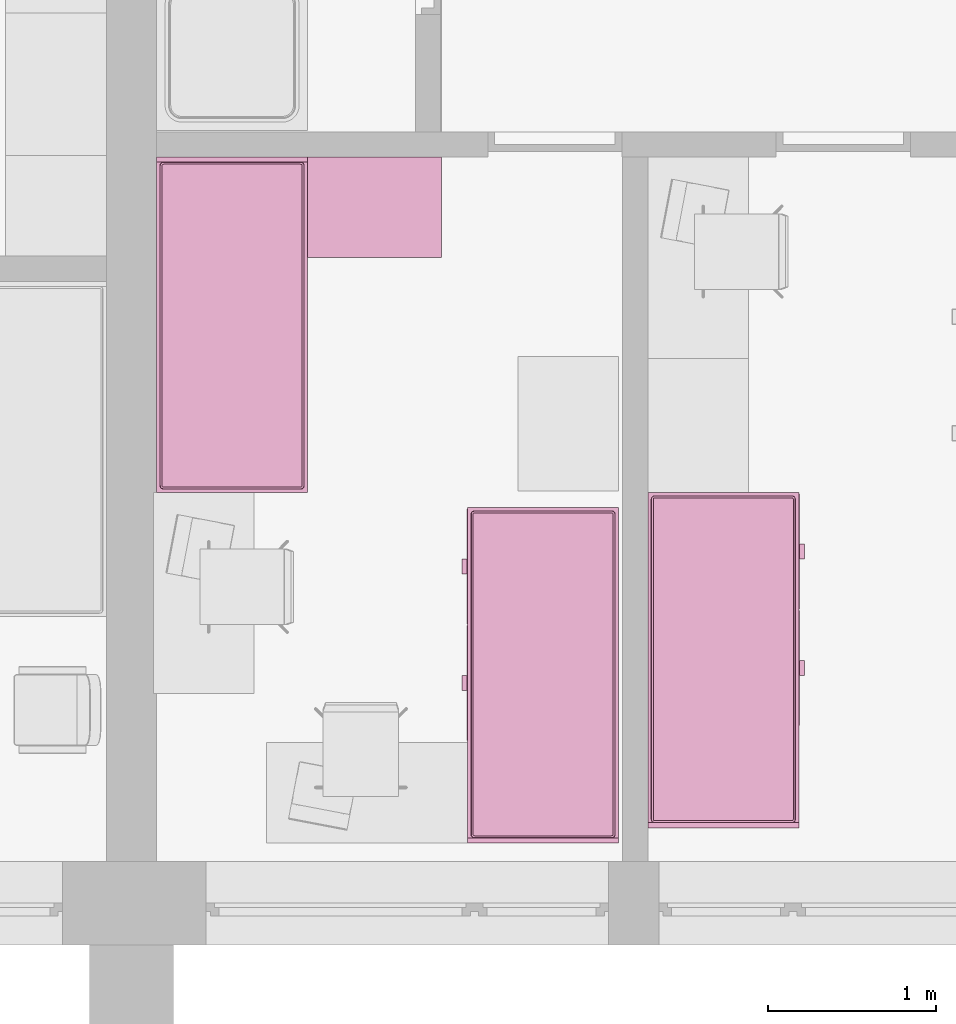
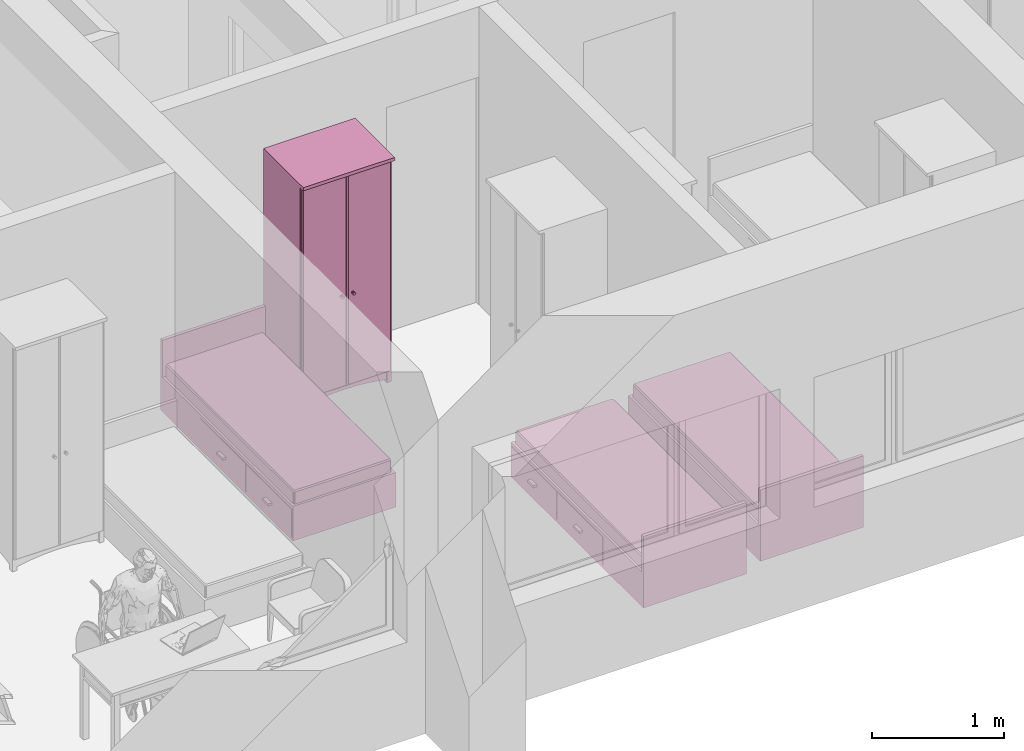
# One storey, part 125 of 172: 4 furnishings.
"""IFC2X3 building model written with IfcOpenShell, lengths in millimetres."""

from ifc_helpers import new_model, entity, si_unit, converted_unit, money_unit, direction, frame, origin_with_axes, place, context, subcontext, project, spatial, faceted_brep, source, transform, mapped, material, material_list, type_object, element, save


model = new_model("IFC2X3")

# Units and contexts
model_context = context("Model", 3, precision=1e-05, world=origin_with_axes(), true_north=direction((0.0, 1.0)))
body_context = subcontext(model_context, "Body", "Model", "MODEL_VIEW")
ifc_project = project(units=[si_unit("LENGTHUNIT", "METRE", prefix="MILLI"), si_unit("AREAUNIT", "SQUARE_METRE"), si_unit("VOLUMEUNIT", "CUBIC_METRE"), converted_unit("PLANEANGLEUNIT", "DEGREE", entity("IfcPlaneAngleMeasure", 0.0174532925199), si_unit("PLANEANGLEUNIT", "RADIAN"), dimensions=[0, 0, 0, 0, 0, 0, 0]), si_unit("SOLIDANGLEUNIT", "STERADIAN"), money_unit("USD"), converted_unit("TIMEUNIT", "Year", entity("IfcTimeMeasure", 31556926.0), si_unit("TIMEUNIT", "SECOND"), dimensions=[0, 0, 0, 0, 0, 0, 0]), si_unit("MASSUNIT", "GRAM"), si_unit("THERMODYNAMICTEMPERATUREUNIT", "DEGREE_CELSIUS"), si_unit("LUMINOUSINTENSITYUNIT", "LUMEN")], contexts=[model_context])

# Site, building, storey
site_placement = place(None, origin_with_axes())
site = spatial("IfcSite", under=ifc_project, at=site_placement, Name="Site", CompositionType="ELEMENT")
building_placement = place(site_placement, origin_with_axes())
building = spatial("IfcBuilding", under=site, at=building_placement, Name="Building", CompositionType="ELEMENT")
storey_placement = place(building_placement, frame((0.0, 0.0, 3200.0), z_axis=(0.0, 0.0, 1.0), x_axis=(1.0, 0.0, 0.0)))
storey = spatial("IfcBuildingStorey", under=building, at=storey_placement, Name="3KORRUS", CompositionType="ELEMENT", Elevation=3200.0)

# Furnishings
ifc_material = material(Name="Background")
ifc_material_list = material_list([ifc_material])
furnishing_element_type_1 = type_object("IfcFurnishingElementType", Name="Bed 19")
shared_shape_1 = source(origin_with_axes(), body_context, "Body", "Brep", [
    faceted_brep([(900.0, 1970.0, 0.0), (0.0, 1970.0, 0.0), (0.0, 2000.0, 0.0), (900.0, 2000.0, 0.0), (900.0, 1970.0, 660.0), (0.0, 1970.0, 660.0), (0.0, 2000.0, 660.0), (900.0, 2000.0, 660.0)], [[[0, 1, 2, 3]], [[1, 0, 4, 5]], [[2, 1, 5, 6]], [[3, 2, 6, 7]], [[0, 3, 7, 4]], [[5, 4, 7, 6]]]),
    faceted_brep([(900.0, 0.0, 0.0), (0.0, 0.0, 0.0), (0.0, 1970.0, 0.0), (900.0, 1970.0, 0.0), (900.0, 0.0, 320.0), (0.0, 0.0, 320.0), (0.0, 1970.0, 320.0), (900.0, 1970.0, 320.0)], [[[0, 1, 2, 3]], [[1, 0, 4, 5]], [[2, 1, 5, 6]], [[3, 2, 6, 7]], [[0, 3, 7, 4]], [[5, 4, 7, 6]]]),
    faceted_brep([(905.0, 10.0, 30.0), (900.0, 10.0, 30.0), (900.0, 695.0, 30.0), (905.0, 695.0, 30.0), (905.0, 10.0, 290.0), (900.0, 10.0, 290.0), (900.0, 695.0, 290.0), (905.0, 695.0, 290.0)], [[[0, 1, 2, 3]], [[1, 0, 4, 5]], [[2, 1, 5, 6]], [[3, 2, 6, 7]], [[0, 3, 7, 4]], [[5, 4, 7, 6]]]),
    faceted_brep([(935.0, 307.5, 150.0), (905.0, 307.5, 150.0), (905.0, 397.5, 150.0), (935.0, 397.5, 150.0), (935.0, 307.5, 170.0), (905.0, 307.5, 170.0), (905.0, 397.5, 170.0), (935.0, 397.5, 170.0)], [[[0, 1, 2, 3]], [[1, 0, 4, 5]], [[2, 1, 5, 6]], [[3, 2, 6, 7]], [[0, 3, 7, 4]], [[5, 4, 7, 6]]]),
    faceted_brep([(905.0, 705.0, 30.0), (900.0, 705.0, 30.0), (900.0, 1390.0, 30.0), (905.0, 1390.0, 30.0), (905.0, 705.0, 290.0), (900.0, 705.0, 290.0), (900.0, 1390.0, 290.0), (905.0, 1390.0, 290.0)], [[[0, 1, 2, 3]], [[1, 0, 4, 5]], [[2, 1, 5, 6]], [[3, 2, 6, 7]], [[0, 3, 7, 4]], [[5, 4, 7, 6]]]),
    faceted_brep([(935.0, 1002.5, 150.0), (905.0, 1002.5, 150.0), (905.0, 1092.5, 150.0), (935.0, 1092.5, 150.0), (935.0, 1002.5, 170.0), (905.0, 1002.5, 170.0), (905.0, 1092.5, 170.0), (935.0, 1092.5, 170.0)], [[[0, 1, 2, 3]], [[1, 0, 4, 5]], [[2, 1, 5, 6]], [[3, 2, 6, 7]], [[0, 3, 7, 4]], [[5, 4, 7, 6]]]),
    faceted_brep([(20.0, 40.0, 350.0), (20.0, 1950.0, 350.0), (21.522, 1957.654, 350.0), (25.858, 1964.142, 350.0), (32.346, 1968.478, 350.0), (40.0, 1970.0, 350.0), (860.0, 1970.0, 350.0), (867.654, 1968.478, 350.0), (874.142, 1964.142, 350.0), (878.478, 1957.654, 350.0), (880.0, 1950.0, 350.0), (880.0, 40.0, 350.0), (878.478, 32.346, 350.0), (874.142, 25.858, 350.0), (867.654, 21.522, 350.0), (860.0, 20.0, 350.0), (40.0, 20.0, 350.0), (32.346, 21.522, 350.0), (25.858, 25.858, 350.0), (21.522, 32.346, 350.0), (20.0, 40.0, 420.0), (20.0, 1950.0, 420.0), (21.522, 1957.654, 420.0), (25.858, 1964.142, 420.0), (32.346, 1968.478, 420.0), (40.0, 1970.0, 420.0), (860.0, 1970.0, 420.0), (867.654, 1968.478, 420.0), (874.142, 1964.142, 420.0), (878.478, 1957.654, 420.0), (880.0, 1950.0, 420.0), (880.0, 40.0, 420.0), (878.478, 32.346, 420.0), (874.142, 25.858, 420.0), (867.654, 21.522, 420.0), (860.0, 20.0, 420.0), (40.0, 20.0, 420.0), (32.346, 21.522, 420.0), (25.858, 25.858, 420.0), (21.522, 32.346, 420.0), (21.522, 40.15, 427.654), (21.522, 1949.85, 427.654), (22.956, 1957.06, 427.654), (26.955, 1963.045, 427.654), (32.94, 1967.044, 427.654), (40.15, 1968.478, 427.654), (859.85, 1968.478, 427.654), (867.06, 1967.044, 427.654), (873.045, 1963.045, 427.654), (877.044, 1957.06, 427.654), (878.478, 1949.85, 427.654), (878.478, 40.15, 427.654), (877.044, 32.94, 427.654), (873.045, 26.955, 427.654), (867.06, 22.956, 427.654), (859.85, 21.522, 427.654), (40.15, 21.522, 427.654), (32.94, 22.956, 427.654), (26.955, 26.955, 427.654), (22.956, 32.94, 427.654), (32.346, 41.216, 438.478), (32.346, 1948.784, 438.478), (33.152, 1952.836, 438.478), (34.759, 1955.241, 438.478), (37.164, 1956.848, 438.478), (41.216, 1957.654, 438.478), (858.784, 1957.654, 438.478), (862.836, 1956.848, 438.478), (865.241, 1955.241, 438.478), (866.848, 1952.836, 438.478), (867.654, 1948.784, 438.478), (867.654, 41.216, 438.478), (866.848, 37.164, 438.478), (865.241, 34.759, 438.478), (862.836, 33.152, 438.478), (858.784, 32.346, 438.478), (41.216, 32.346, 438.478), (37.164, 33.152, 438.478), (34.759, 34.759, 438.478), (33.152, 37.164, 438.478), (40.0, 41.97, 440.0), (40.0, 1948.03, 440.0), (40.327, 1949.673, 440.0), (40.0, 1950.0, 439.924), (41.97, 1950.0, 440.0), (858.03, 1950.0, 440.0), (859.673, 1949.673, 440.0), (860.0, 1950.0, 439.924), (860.0, 1948.03, 440.0), (860.0, 41.97, 440.0), (859.673, 40.327, 440.0), (860.0, 40.0, 439.924), (858.03, 40.0, 440.0), (41.97, 40.0, 440.0), (40.327, 40.327, 440.0), (40.0, 40.0, 439.924)], [[[0, 1, 2, 3, 4, 5, 6, 7, 8, 9, 10, 11, 12, 13, 14, 15, 16, 17, 18, 19]], [[1, 0, 20, 21]], [[2, 1, 21, 22]], [[3, 2, 22, 23]], [[4, 3, 23, 24]], [[5, 4, 24, 25]], [[6, 5, 25, 26]], [[7, 6, 26, 27]], [[8, 7, 27, 28]], [[9, 8, 28, 29]], [[10, 9, 29, 30]], [[11, 10, 30, 31]], [[12, 11, 31, 32]], [[13, 12, 32, 33]], [[14, 13, 33, 34]], [[15, 14, 34, 35]], [[16, 15, 35, 36]], [[17, 16, 36, 37]], [[18, 17, 37, 38]], [[19, 18, 38, 39]], [[0, 19, 39, 20]], [[21, 20, 40, 41]], [[22, 21, 41, 42]], [[23, 22, 42, 43]], [[24, 23, 43, 44]], [[25, 24, 44, 45]], [[26, 25, 45, 46]], [[27, 26, 46, 47]], [[28, 27, 47, 48]], [[29, 28, 48, 49]], [[30, 29, 49, 50]], [[31, 30, 50, 51]], [[32, 31, 51, 52]], [[33, 32, 52, 53]], [[34, 33, 53, 54]], [[35, 34, 54, 55]], [[36, 35, 55, 56]], [[37, 36, 56, 57]], [[38, 37, 57, 58]], [[39, 38, 58, 59]], [[20, 39, 59, 40]], [[41, 40, 60, 61]], [[42, 41, 61, 62]], [[43, 42, 62, 63]], [[44, 43, 63, 64]], [[45, 44, 64, 65]], [[46, 45, 65, 66]], [[47, 46, 66, 67]], [[48, 47, 67, 68]], [[49, 48, 68, 69]], [[50, 49, 69, 70]], [[51, 50, 70, 71]], [[52, 51, 71, 72]], [[53, 52, 72, 73]], [[54, 53, 73, 74]], [[55, 54, 74, 75]], [[56, 55, 75, 76]], [[57, 56, 76, 77]], [[58, 57, 77, 78]], [[59, 58, 78, 79]], [[40, 59, 79, 60]], [[61, 60, 80, 81]], [[62, 61, 81, 82, 83]], [[63, 62, 83]], [[64, 63, 83]], [[65, 64, 83, 82, 84]], [[66, 65, 84, 85]], [[67, 66, 85, 86, 87]], [[68, 67, 87]], [[69, 68, 87]], [[70, 69, 87, 86, 88]], [[71, 70, 88, 89]], [[72, 71, 89, 90, 91]], [[73, 72, 91]], [[74, 73, 91]], [[75, 74, 91, 90, 92]], [[76, 75, 92, 93]], [[77, 76, 93, 94, 95]], [[78, 77, 95]], [[79, 78, 95]], [[60, 79, 95, 94, 80]], [[81, 80, 94, 93, 92, 90, 89, 88, 86, 85, 84, 82]]]),
    faceted_brep([(20.0, 40.0, 350.0), (21.522, 32.346, 350.0), (25.858, 25.858, 350.0), (32.346, 21.522, 350.0), (40.0, 20.0, 350.0), (860.0, 20.0, 350.0), (867.654, 21.522, 350.0), (874.142, 25.858, 350.0), (878.478, 32.346, 350.0), (880.0, 40.0, 350.0), (880.0, 1950.0, 350.0), (878.478, 1957.654, 350.0), (874.142, 1964.142, 350.0), (867.654, 1968.478, 350.0), (860.0, 1970.0, 350.0), (40.0, 1970.0, 350.0), (32.346, 1968.478, 350.0), (25.858, 1964.142, 350.0), (21.522, 1957.654, 350.0), (20.0, 1950.0, 350.0), (20.0, 40.0, 320.0), (21.522, 32.346, 320.0), (25.858, 25.858, 320.0), (32.346, 21.522, 320.0), (40.0, 20.0, 320.0), (860.0, 20.0, 320.0), (867.654, 21.522, 320.0), (874.142, 25.858, 320.0), (878.478, 32.346, 320.0), (880.0, 40.0, 320.0), (880.0, 1950.0, 320.0), (878.478, 1957.654, 320.0), (874.142, 1964.142, 320.0), (867.654, 1968.478, 320.0), (860.0, 1970.0, 320.0), (40.0, 1970.0, 320.0), (32.346, 1968.478, 320.0), (25.858, 1964.142, 320.0), (21.522, 1957.654, 320.0), (20.0, 1950.0, 320.0)], [[[0, 1, 2, 3, 4, 5, 6, 7, 8, 9, 10, 11, 12, 13, 14, 15, 16, 17, 18, 19]], [[0, 20, 21, 1]], [[1, 21, 22, 2]], [[2, 22, 23, 3]], [[3, 23, 24, 4]], [[4, 24, 25, 5]], [[5, 25, 26, 6]], [[6, 26, 27, 7]], [[7, 27, 28, 8]], [[8, 28, 29, 9]], [[9, 29, 30, 10]], [[10, 30, 31, 11]], [[11, 31, 32, 12]], [[12, 32, 33, 13]], [[13, 33, 34, 14]], [[14, 34, 35, 15]], [[15, 35, 36, 16]], [[16, 36, 37, 17]], [[17, 37, 38, 18]], [[18, 38, 39, 19]], [[19, 39, 20, 0]], [[20, 39, 38, 37, 36, 35, 34, 33, 32, 31, 30, 29, 28, 27, 26, 25, 24, 23, 22, 21]]]),
])
furnishing_1_placement = place(storey_placement, frame((2764.70329669, -17529.2398994, 0.0), z_axis=(0.0, 0.0, 1.0), x_axis=(-1.0, 0.0, 0.0)))
element("IfcFurnishingElement", 1, at=furnishing_1_placement, inside=storey, type_object=furnishing_element_type_1, material=ifc_material_list, Name="FU - 013", context=body_context, shape_type="MappedRepresentation", body=[
    mapped(shared_shape_1, transform((0.0, 0.0, 0.0))),
])
furnishing_element_type_2 = type_object("IfcFurnishingElementType", Name="Cupboard 19")
shared_shape_2 = source(origin_with_axes(), body_context, "Body", "Brep", [
    faceted_brep([(-780.0, 600.0, 120.0), (-780.0, 580.0, 120.0), (-780.0, 580.0, 2050.0), (-780.0, 600.0, 2050.0), (-20.0, 600.0, 120.0), (-20.0, 580.0, 120.0), (-20.0, 580.0, 2050.0), (-20.0, 600.0, 2050.0)], [[[0, 1, 2, 3]], [[0, 4, 5, 1]], [[1, 5, 6, 2]], [[3, 2, 6, 7]], [[4, 0, 3, 7]], [[5, 4, 7, 6]]]),
    faceted_brep([(0.0, 50.0, 100.0), (-20.0, 50.0, 100.0), (-20.0, 600.0, 100.0), (0.0, 600.0, 100.0), (0.0, 50.0, 2070.0), (-20.0, 50.0, 2070.0), (-20.0, 600.0, 2070.0), (0.0, 600.0, 2070.0)], [[[0, 1, 2, 3]], [[1, 0, 4, 5]], [[2, 1, 5, 6]], [[3, 2, 6, 7]], [[0, 3, 7, 4]], [[5, 4, 7, 6]]]),
    faceted_brep([(-780.0, 50.0, 100.0), (-800.0, 50.0, 100.0), (-800.0, 600.0, 100.0), (-780.0, 600.0, 100.0), (-780.0, 50.0, 2070.0), (-800.0, 50.0, 2070.0), (-800.0, 600.0, 2070.0), (-780.0, 600.0, 2070.0)], [[[0, 1, 2, 3]], [[1, 0, 4, 5]], [[2, 1, 5, 6]], [[3, 2, 6, 7]], [[0, 3, 7, 4]], [[5, 4, 7, 6]]]),
    faceted_brep([(-20.0, 50.0, 100.0), (-780.0, 50.0, 100.0), (-780.0, 600.0, 100.0), (-20.0, 600.0, 100.0), (-20.0, 50.0, 120.0), (-780.0, 50.0, 120.0), (-780.0, 600.0, 120.0), (-20.0, 600.0, 120.0)], [[[0, 1, 2, 3]], [[1, 0, 4, 5]], [[2, 1, 5, 6]], [[3, 2, 6, 7]], [[0, 3, 7, 4]], [[5, 4, 7, 6]]]),
    faceted_brep([(-20.0, 50.0, 2050.0), (-780.0, 50.0, 2050.0), (-780.0, 600.0, 2050.0), (-20.0, 600.0, 2050.0), (-20.0, 50.0, 2070.0), (-780.0, 50.0, 2070.0), (-780.0, 600.0, 2070.0), (-20.0, 600.0, 2070.0)], [[[0, 1, 2, 3]], [[1, 0, 4, 5]], [[2, 1, 5, 6]], [[3, 2, 6, 7]], [[0, 3, 7, 4]], [[5, 4, 7, 6]]]),
    faceted_brep([(0.0, 600.0, 2070.0), (0.0, 600.0, 2100.0), (0.0, 0.0, 2100.0), (0.0, 0.0, 2070.0), (-800.0, 600.0, 2070.0), (-800.0, 600.0, 2100.0), (-800.0, 0.0, 2100.0), (-800.0, 0.0, 2070.0)], [[[0, 1, 2, 3]], [[4, 5, 1, 0]], [[1, 5, 6, 2]], [[3, 2, 6, 7]], [[0, 3, 7, 4]], [[7, 6, 5, 4]]]),
    faceted_brep([(-760.0, 590.0, 25.0), (-640.962, 590.0, 45.8), (-640.962, 570.0, 45.8), (-760.0, 570.0, 25.0), (-760.0, 590.0, 100.0), (-40.0, 590.0, 100.0), (-40.0, 590.0, 25.0), (-159.038, 590.0, 45.8), (-279.23, 590.0, 58.32), (-400.0, 590.0, 62.5), (-520.77, 590.0, 58.32), (-520.77, 570.0, 58.32), (-400.0, 570.0, 62.5), (-279.23, 570.0, 58.32), (-159.038, 570.0, 45.8), (-40.0, 570.0, 25.0), (-40.0, 570.0, 100.0), (-760.0, 570.0, 100.0)], [[[0, 1, 2, 3]], [[0, 4, 5, 6, 7, 8, 9, 10, 1]], [[1, 10, 11, 2]], [[3, 2, 11, 12, 13, 14, 15, 16, 17]], [[4, 0, 3, 17]], [[5, 4, 17, 16]], [[6, 5, 16, 15]], [[7, 6, 15, 14]], [[8, 7, 14, 13]], [[9, 8, 13, 12]], [[10, 9, 12, 11]]]),
    faceted_brep([(-760.0, 80.0, 25.0), (-640.962, 80.0, 45.8), (-640.962, 60.0, 45.8), (-760.0, 60.0, 25.0), (-760.0, 80.0, 100.0), (-40.0, 80.0, 100.0), (-40.0, 80.0, 25.0), (-159.038, 80.0, 45.8), (-279.23, 80.0, 58.32), (-400.0, 80.0, 62.5), (-520.77, 80.0, 58.32), (-520.77, 60.0, 58.32), (-400.0, 60.0, 62.5), (-279.23, 60.0, 58.32), (-159.038, 60.0, 45.8), (-40.0, 60.0, 25.0), (-40.0, 60.0, 100.0), (-760.0, 60.0, 100.0)], [[[0, 1, 2, 3]], [[0, 4, 5, 6, 7, 8, 9, 10, 1]], [[1, 10, 11, 2]], [[3, 2, 11, 12, 13, 14, 15, 16, 17]], [[4, 0, 3, 17]], [[5, 4, 17, 16]], [[6, 5, 16, 15]], [[7, 6, 15, 14]], [[8, 7, 14, 13]], [[9, 8, 13, 12]], [[10, 9, 12, 11]]]),
    faceted_brep([(-790.0, 90.0, 25.0), (-790.0, 141.266, 38.072), (-770.0, 141.266, 38.072), (-770.0, 90.0, 25.0), (-790.0, 90.0, 100.0), (-790.0, 560.0, 100.0), (-790.0, 560.0, 25.0), (-790.0, 508.734, 38.072), (-790.0, 456.752, 47.92), (-790.0, 404.257, 54.508), (-790.0, 351.453, 57.808), (-790.0, 298.547, 57.808), (-790.0, 245.743, 54.508), (-790.0, 193.248, 47.92), (-770.0, 193.248, 47.92), (-770.0, 245.743, 54.508), (-770.0, 298.547, 57.808), (-770.0, 351.453, 57.808), (-770.0, 404.257, 54.508), (-770.0, 456.752, 47.92), (-770.0, 508.734, 38.072), (-770.0, 560.0, 25.0), (-770.0, 560.0, 100.0), (-770.0, 90.0, 100.0)], [[[0, 1, 2, 3]], [[0, 4, 5, 6, 7, 8, 9, 10, 11, 12, 13, 1]], [[1, 13, 14, 2]], [[3, 2, 14, 15, 16, 17, 18, 19, 20, 21, 22, 23]], [[4, 0, 3, 23]], [[5, 4, 23, 22]], [[6, 5, 22, 21]], [[7, 6, 21, 20]], [[8, 7, 20, 19]], [[9, 8, 19, 18]], [[10, 9, 18, 17]], [[11, 10, 17, 16]], [[12, 11, 16, 15]], [[13, 12, 15, 14]]]),
    faceted_brep([(-30.0, 90.0, 25.0), (-30.0, 141.266, 38.072), (-10.0, 141.266, 38.072), (-10.0, 90.0, 25.0), (-30.0, 90.0, 100.0), (-30.0, 560.0, 100.0), (-30.0, 560.0, 25.0), (-30.0, 508.734, 38.072), (-30.0, 456.752, 47.92), (-30.0, 404.257, 54.508), (-30.0, 351.453, 57.808), (-30.0, 298.547, 57.808), (-30.0, 245.743, 54.508), (-30.0, 193.248, 47.92), (-10.0, 193.248, 47.92), (-10.0, 245.743, 54.508), (-10.0, 298.547, 57.808), (-10.0, 351.453, 57.808), (-10.0, 404.257, 54.508), (-10.0, 456.752, 47.92), (-10.0, 508.734, 38.072), (-10.0, 560.0, 25.0), (-10.0, 560.0, 100.0), (-10.0, 90.0, 100.0)], [[[0, 1, 2, 3]], [[0, 4, 5, 6, 7, 8, 9, 10, 11, 12, 13, 1]], [[1, 13, 14, 2]], [[3, 2, 14, 15, 16, 17, 18, 19, 20, 21, 22, 23]], [[4, 0, 3, 23]], [[5, 4, 23, 22]], [[6, 5, 22, 21]], [[7, 6, 21, 20]], [[8, 7, 20, 19]], [[9, 8, 19, 18]], [[10, 9, 18, 17]], [[11, 10, 17, 16]], [[12, 11, 16, 15]], [[13, 12, 15, 14]]]),
    faceted_brep([(-760.0, 560.0, 0.0), (-760.0, 600.0, 0.0), (-760.0, 600.0, 100.0), (-760.0, 560.0, 100.0), (-800.0, 560.0, 0.0), (-800.0, 600.0, 0.0), (-800.0, 600.0, 100.0), (-800.0, 560.0, 100.0)], [[[0, 1, 2, 3]], [[0, 4, 5, 1]], [[1, 5, 6, 2]], [[3, 2, 6, 7]], [[4, 0, 3, 7]], [[5, 4, 7, 6]]]),
    faceted_brep([(0.0, 560.0, 0.0), (0.0, 600.0, 0.0), (0.0, 600.0, 100.0), (0.0, 560.0, 100.0), (-40.0, 560.0, 0.0), (-40.0, 600.0, 0.0), (-40.0, 600.0, 100.0), (-40.0, 560.0, 100.0)], [[[0, 1, 2, 3]], [[0, 4, 5, 1]], [[1, 5, 6, 2]], [[3, 2, 6, 7]], [[4, 0, 3, 7]], [[5, 4, 7, 6]]]),
    faceted_brep([(-760.0, 50.0, 0.0), (-760.0, 90.0, 0.0), (-760.0, 90.0, 100.0), (-760.0, 50.0, 100.0), (-800.0, 50.0, 0.0), (-800.0, 90.0, 0.0), (-800.0, 90.0, 100.0), (-800.0, 50.0, 100.0)], [[[0, 1, 2, 3]], [[0, 4, 5, 1]], [[1, 5, 6, 2]], [[3, 2, 6, 7]], [[4, 0, 3, 7]], [[5, 4, 7, 6]]]),
    faceted_brep([(0.0, 50.0, 0.0), (0.0, 90.0, 0.0), (0.0, 90.0, 100.0), (0.0, 50.0, 100.0), (-40.0, 50.0, 0.0), (-40.0, 90.0, 0.0), (-40.0, 90.0, 100.0), (-40.0, 50.0, 100.0)], [[[0, 1, 2, 3]], [[0, 4, 5, 1]], [[1, 5, 6, 2]], [[3, 2, 6, 7]], [[4, 0, 3, 7]], [[5, 4, 7, 6]]]),
    faceted_brep([(-780.0, 580.0, 587.5), (-780.0, 50.0, 587.5), (-780.0, 50.0, 607.5), (-780.0, 580.0, 607.5), (-20.0, 580.0, 587.5), (-20.0, 50.0, 587.5), (-20.0, 50.0, 607.5), (-20.0, 580.0, 607.5)], [[[0, 1, 2, 3]], [[0, 4, 5, 1]], [[1, 5, 6, 2]], [[3, 2, 6, 7]], [[4, 0, 3, 7]], [[5, 4, 7, 6]]]),
    faceted_brep([(-780.0, 580.0, 1075.0), (-780.0, 50.0, 1075.0), (-780.0, 50.0, 1095.0), (-780.0, 580.0, 1095.0), (-20.0, 580.0, 1075.0), (-20.0, 50.0, 1075.0), (-20.0, 50.0, 1095.0), (-20.0, 580.0, 1095.0)], [[[0, 1, 2, 3]], [[0, 4, 5, 1]], [[1, 5, 6, 2]], [[3, 2, 6, 7]], [[4, 0, 3, 7]], [[5, 4, 7, 6]]]),
    faceted_brep([(-780.0, 580.0, 1562.5), (-780.0, 50.0, 1562.5), (-780.0, 50.0, 1582.5), (-780.0, 580.0, 1582.5), (-20.0, 580.0, 1562.5), (-20.0, 50.0, 1562.5), (-20.0, 50.0, 1582.5), (-20.0, 580.0, 1582.5)], [[[0, 1, 2, 3]], [[0, 4, 5, 1]], [[1, 5, 6, 2]], [[3, 2, 6, 7]], [[4, 0, 3, 7]], [[5, 4, 7, 6]]]),
    faceted_brep([(-789.5, 50.0, 110.5), (-789.5, 50.0, 2059.5), (-400.5, 50.0, 2059.5), (-400.5, 50.0, 110.5), (-789.5, 40.0, 110.5), (-789.5, 40.0, 2059.5), (-400.5, 40.0, 2059.5), (-400.5, 40.0, 110.5), (-779.5, 30.0, 120.5), (-779.5, 30.0, 2049.5), (-410.5, 30.0, 2049.5), (-410.5, 30.0, 120.5)], [[[0, 1, 2, 3]], [[1, 0, 4, 5]], [[2, 1, 5, 6]], [[3, 2, 6, 7]], [[0, 3, 7, 4]], [[5, 4, 8, 9]], [[6, 5, 9, 10]], [[7, 6, 10, 11]], [[4, 7, 11, 8]], [[10, 9, 8, 11]]]),
    faceted_brep([(-399.5, 50.0, 110.5), (-399.5, 50.0, 2059.5), (-10.5, 50.0, 2059.5), (-10.5, 50.0, 110.5), (-399.5, 40.0, 110.5), (-399.5, 40.0, 2059.5), (-10.5, 40.0, 2059.5), (-10.5, 40.0, 110.5), (-389.5, 30.0, 120.5), (-389.5, 30.0, 2049.5), (-20.5, 30.0, 2049.5), (-20.5, 30.0, 120.5)], [[[0, 1, 2, 3]], [[1, 0, 4, 5]], [[2, 1, 5, 6]], [[3, 2, 6, 7]], [[0, 3, 7, 4]], [[5, 4, 8, 9]], [[6, 5, 9, 10]], [[7, 6, 10, 11]], [[4, 7, 11, 8]], [[10, 9, 8, 11]]]),
    faceted_brep([(-339.608, 30.0, 954.0), (-344.0, 30.0, 949.608), (-350.0, 30.0, 948.0), (-356.0, 30.0, 949.608), (-360.392, 30.0, 954.0), (-362.0, 30.0, 960.0), (-360.392, 30.0, 966.0), (-356.0, 30.0, 970.392), (-350.0, 30.0, 972.0), (-344.0, 30.0, 970.392), (-339.608, 30.0, 966.0), (-338.0, 30.0, 960.0), (-339.608, 5.0, 954.0), (-344.0, 5.0, 949.608), (-350.0, 5.0, 948.0), (-356.0, 5.0, 949.608), (-360.392, 5.0, 954.0), (-362.0, 5.0, 960.0), (-360.392, 5.0, 966.0), (-356.0, 5.0, 970.392), (-350.0, 5.0, 972.0), (-344.0, 5.0, 970.392), (-339.608, 5.0, 966.0), (-338.0, 5.0, 960.0)], [[[0, 1, 2, 3, 4, 5, 6, 7, 8, 9, 10, 11]], [[1, 0, 12, 13]], [[2, 1, 13, 14]], [[3, 2, 14, 15]], [[4, 3, 15, 16]], [[5, 4, 16, 17]], [[6, 5, 17, 18]], [[7, 6, 18, 19]], [[8, 7, 19, 20]], [[9, 8, 20, 21]], [[10, 9, 21, 22]], [[11, 10, 22, 23]], [[0, 11, 23, 12]], [[12, 23, 22, 21, 20, 19, 18, 17, 16, 15, 14, 13]]]),
    faceted_brep([(-460.392, 30.0, 954.0), (-462.0, 30.0, 960.0), (-460.392, 30.0, 966.0), (-456.0, 30.0, 970.392), (-450.0, 30.0, 972.0), (-444.0, 30.0, 970.392), (-439.608, 30.0, 966.0), (-438.0, 30.0, 960.0), (-439.608, 30.0, 954.0), (-444.0, 30.0, 949.608), (-450.0, 30.0, 948.0), (-456.0, 30.0, 949.608), (-460.392, 5.0, 954.0), (-462.0, 5.0, 960.0), (-460.392, 5.0, 966.0), (-456.0, 5.0, 970.392), (-450.0, 5.0, 972.0), (-444.0, 5.0, 970.392), (-439.608, 5.0, 966.0), (-438.0, 5.0, 960.0), (-439.608, 5.0, 954.0), (-444.0, 5.0, 949.608), (-450.0, 5.0, 948.0), (-456.0, 5.0, 949.608)], [[[0, 1, 2, 3, 4, 5, 6, 7, 8, 9, 10, 11]], [[0, 12, 13, 1]], [[1, 13, 14, 2]], [[2, 14, 15, 3]], [[3, 15, 16, 4]], [[4, 16, 17, 5]], [[5, 17, 18, 6]], [[6, 18, 19, 7]], [[7, 19, 20, 8]], [[8, 20, 21, 9]], [[9, 21, 22, 10]], [[10, 22, 23, 11]], [[11, 23, 12, 0]], [[12, 23, 22, 21, 20, 19, 18, 17, 16, 15, 14, 13]]]),
])
furnishing_2_placement = place(storey_placement, frame((1709.70329669, -16039.2398994, 0.0), z_axis=(0.0, 0.0, 1.0), x_axis=(1.0, 0.0, 0.0)))
element("IfcFurnishingElement", 2, at=furnishing_2_placement, inside=storey, type_object=furnishing_element_type_2, material=ifc_material_list, Name="FU - 014", context=body_context, shape_type="MappedRepresentation", body=[
    mapped(shared_shape_2, transform((0.0, 0.0, 0.0))),
])
shared_shape_3 = source(origin_with_axes(), body_context, "Body", "Brep", [
    faceted_brep([(-900.0, 1970.0, 0.0), (-900.0, 2000.0, 0.0), (0.0, 2000.0, 0.0), (0.0, 1970.0, 0.0), (-900.0, 1970.0, 660.0), (-900.0, 2000.0, 660.0), (0.0, 2000.0, 660.0), (0.0, 1970.0, 660.0)], [[[0, 1, 2, 3]], [[0, 4, 5, 1]], [[1, 5, 6, 2]], [[2, 6, 7, 3]], [[3, 7, 4, 0]], [[7, 6, 5, 4]]]),
    faceted_brep([(-900.0, 0.0, 0.0), (-900.0, 1970.0, 0.0), (0.0, 1970.0, 0.0), (0.0, 0.0, 0.0), (-900.0, 0.0, 320.0), (-900.0, 1970.0, 320.0), (0.0, 1970.0, 320.0), (0.0, 0.0, 320.0)], [[[0, 1, 2, 3]], [[0, 4, 5, 1]], [[1, 5, 6, 2]], [[2, 6, 7, 3]], [[3, 7, 4, 0]], [[7, 6, 5, 4]]]),
    faceted_brep([(-905.0, 10.0, 30.0), (-905.0, 695.0, 30.0), (-900.0, 695.0, 30.0), (-900.0, 10.0, 30.0), (-905.0, 10.0, 290.0), (-905.0, 695.0, 290.0), (-900.0, 695.0, 290.0), (-900.0, 10.0, 290.0)], [[[0, 1, 2, 3]], [[0, 4, 5, 1]], [[1, 5, 6, 2]], [[2, 6, 7, 3]], [[3, 7, 4, 0]], [[7, 6, 5, 4]]]),
    faceted_brep([(-935.0, 307.5, 150.0), (-935.0, 397.5, 150.0), (-905.0, 397.5, 150.0), (-905.0, 307.5, 150.0), (-935.0, 307.5, 170.0), (-935.0, 397.5, 170.0), (-905.0, 397.5, 170.0), (-905.0, 307.5, 170.0)], [[[0, 1, 2, 3]], [[0, 4, 5, 1]], [[1, 5, 6, 2]], [[2, 6, 7, 3]], [[3, 7, 4, 0]], [[7, 6, 5, 4]]]),
    faceted_brep([(-905.0, 705.0, 30.0), (-905.0, 1390.0, 30.0), (-900.0, 1390.0, 30.0), (-900.0, 705.0, 30.0), (-905.0, 705.0, 290.0), (-905.0, 1390.0, 290.0), (-900.0, 1390.0, 290.0), (-900.0, 705.0, 290.0)], [[[0, 1, 2, 3]], [[0, 4, 5, 1]], [[1, 5, 6, 2]], [[2, 6, 7, 3]], [[3, 7, 4, 0]], [[7, 6, 5, 4]]]),
    faceted_brep([(-935.0, 1002.5, 150.0), (-935.0, 1092.5, 150.0), (-905.0, 1092.5, 150.0), (-905.0, 1002.5, 150.0), (-935.0, 1002.5, 170.0), (-935.0, 1092.5, 170.0), (-905.0, 1092.5, 170.0), (-905.0, 1002.5, 170.0)], [[[0, 1, 2, 3]], [[0, 4, 5, 1]], [[1, 5, 6, 2]], [[2, 6, 7, 3]], [[3, 7, 4, 0]], [[7, 6, 5, 4]]]),
    faceted_brep([(-20.0, 40.0, 350.0), (-21.522, 32.346, 350.0), (-25.858, 25.858, 350.0), (-32.346, 21.522, 350.0), (-40.0, 20.0, 350.0), (-860.0, 20.0, 350.0), (-867.654, 21.522, 350.0), (-874.142, 25.858, 350.0), (-878.478, 32.346, 350.0), (-880.0, 40.0, 350.0), (-880.0, 1950.0, 350.0), (-878.478, 1957.654, 350.0), (-874.142, 1964.142, 350.0), (-867.654, 1968.478, 350.0), (-860.0, 1970.0, 350.0), (-40.0, 1970.0, 350.0), (-32.346, 1968.478, 350.0), (-25.858, 1964.142, 350.0), (-21.522, 1957.654, 350.0), (-20.0, 1950.0, 350.0), (-20.0, 40.0, 420.0), (-21.522, 32.346, 420.0), (-25.858, 25.858, 420.0), (-32.346, 21.522, 420.0), (-40.0, 20.0, 420.0), (-860.0, 20.0, 420.0), (-867.654, 21.522, 420.0), (-874.142, 25.858, 420.0), (-878.478, 32.346, 420.0), (-880.0, 40.0, 420.0), (-880.0, 1950.0, 420.0), (-878.478, 1957.654, 420.0), (-874.142, 1964.142, 420.0), (-867.654, 1968.478, 420.0), (-860.0, 1970.0, 420.0), (-40.0, 1970.0, 420.0), (-32.346, 1968.478, 420.0), (-25.858, 1964.142, 420.0), (-21.522, 1957.654, 420.0), (-20.0, 1950.0, 420.0), (-21.522, 40.15, 427.654), (-22.956, 32.94, 427.654), (-26.955, 26.955, 427.654), (-32.94, 22.956, 427.654), (-40.15, 21.522, 427.654), (-859.85, 21.522, 427.654), (-867.06, 22.956, 427.654), (-873.045, 26.955, 427.654), (-877.044, 32.94, 427.654), (-878.478, 40.15, 427.654), (-878.478, 1949.85, 427.654), (-877.044, 1957.06, 427.654), (-873.045, 1963.045, 427.654), (-867.06, 1967.044, 427.654), (-859.85, 1968.478, 427.654), (-40.15, 1968.478, 427.654), (-32.94, 1967.044, 427.654), (-26.955, 1963.045, 427.654), (-22.956, 1957.06, 427.654), (-21.522, 1949.85, 427.654), (-32.346, 41.216, 438.478), (-33.152, 37.164, 438.478), (-34.759, 34.759, 438.478), (-37.164, 33.152, 438.478), (-41.216, 32.346, 438.478), (-858.784, 32.346, 438.478), (-862.836, 33.152, 438.478), (-865.241, 34.759, 438.478), (-866.848, 37.164, 438.478), (-867.654, 41.216, 438.478), (-867.654, 1948.784, 438.478), (-866.848, 1952.836, 438.478), (-865.241, 1955.241, 438.478), (-862.836, 1956.848, 438.478), (-858.784, 1957.654, 438.478), (-41.216, 1957.654, 438.478), (-37.164, 1956.848, 438.478), (-34.759, 1955.241, 438.478), (-33.152, 1952.836, 438.478), (-32.346, 1948.784, 438.478), (-40.0, 41.97, 440.0), (-40.327, 40.327, 440.0), (-40.0, 40.0, 439.924), (-41.97, 40.0, 440.0), (-858.03, 40.0, 440.0), (-859.673, 40.327, 440.0), (-860.0, 40.0, 439.924), (-860.0, 41.97, 440.0), (-860.0, 1948.03, 440.0), (-859.673, 1949.673, 440.0), (-860.0, 1950.0, 439.924), (-858.03, 1950.0, 440.0), (-41.97, 1950.0, 440.0), (-40.327, 1949.673, 440.0), (-40.0, 1950.0, 439.924), (-40.0, 1948.03, 440.0)], [[[0, 1, 2, 3, 4, 5, 6, 7, 8, 9, 10, 11, 12, 13, 14, 15, 16, 17, 18, 19]], [[0, 20, 21, 1]], [[1, 21, 22, 2]], [[2, 22, 23, 3]], [[3, 23, 24, 4]], [[4, 24, 25, 5]], [[5, 25, 26, 6]], [[6, 26, 27, 7]], [[7, 27, 28, 8]], [[8, 28, 29, 9]], [[9, 29, 30, 10]], [[10, 30, 31, 11]], [[11, 31, 32, 12]], [[12, 32, 33, 13]], [[13, 33, 34, 14]], [[14, 34, 35, 15]], [[15, 35, 36, 16]], [[16, 36, 37, 17]], [[17, 37, 38, 18]], [[18, 38, 39, 19]], [[19, 39, 20, 0]], [[20, 40, 41, 21]], [[21, 41, 42, 22]], [[22, 42, 43, 23]], [[23, 43, 44, 24]], [[24, 44, 45, 25]], [[25, 45, 46, 26]], [[26, 46, 47, 27]], [[27, 47, 48, 28]], [[28, 48, 49, 29]], [[29, 49, 50, 30]], [[30, 50, 51, 31]], [[31, 51, 52, 32]], [[32, 52, 53, 33]], [[33, 53, 54, 34]], [[34, 54, 55, 35]], [[35, 55, 56, 36]], [[36, 56, 57, 37]], [[37, 57, 58, 38]], [[38, 58, 59, 39]], [[39, 59, 40, 20]], [[40, 60, 61, 41]], [[41, 61, 62, 42]], [[42, 62, 63, 43]], [[43, 63, 64, 44]], [[44, 64, 65, 45]], [[45, 65, 66, 46]], [[46, 66, 67, 47]], [[47, 67, 68, 48]], [[48, 68, 69, 49]], [[49, 69, 70, 50]], [[50, 70, 71, 51]], [[51, 71, 72, 52]], [[52, 72, 73, 53]], [[53, 73, 74, 54]], [[54, 74, 75, 55]], [[55, 75, 76, 56]], [[56, 76, 77, 57]], [[57, 77, 78, 58]], [[58, 78, 79, 59]], [[59, 79, 60, 40]], [[60, 80, 81, 82, 61]], [[61, 82, 62]], [[62, 82, 63]], [[63, 82, 81, 83, 64]], [[64, 83, 84, 65]], [[65, 84, 85, 86, 66]], [[66, 86, 67]], [[67, 86, 68]], [[68, 86, 85, 87, 69]], [[69, 87, 88, 70]], [[70, 88, 89, 90, 71]], [[71, 90, 72]], [[72, 90, 73]], [[73, 90, 89, 91, 74]], [[74, 91, 92, 75]], [[75, 92, 93, 94, 76]], [[76, 94, 77]], [[77, 94, 78]], [[78, 94, 93, 95, 79]], [[79, 95, 80, 60]], [[95, 93, 92, 91, 89, 88, 87, 85, 84, 83, 81, 80]]]),
    faceted_brep([(-20.0, 40.0, 350.0), (-20.0, 1950.0, 350.0), (-21.522, 1957.654, 350.0), (-25.858, 1964.142, 350.0), (-32.346, 1968.478, 350.0), (-40.0, 1970.0, 350.0), (-860.0, 1970.0, 350.0), (-867.654, 1968.478, 350.0), (-874.142, 1964.142, 350.0), (-878.478, 1957.654, 350.0), (-880.0, 1950.0, 350.0), (-880.0, 40.0, 350.0), (-878.478, 32.346, 350.0), (-874.142, 25.858, 350.0), (-867.654, 21.522, 350.0), (-860.0, 20.0, 350.0), (-40.0, 20.0, 350.0), (-32.346, 21.522, 350.0), (-25.858, 25.858, 350.0), (-21.522, 32.346, 350.0), (-20.0, 40.0, 320.0), (-20.0, 1950.0, 320.0), (-21.522, 1957.654, 320.0), (-25.858, 1964.142, 320.0), (-32.346, 1968.478, 320.0), (-40.0, 1970.0, 320.0), (-860.0, 1970.0, 320.0), (-867.654, 1968.478, 320.0), (-874.142, 1964.142, 320.0), (-878.478, 1957.654, 320.0), (-880.0, 1950.0, 320.0), (-880.0, 40.0, 320.0), (-878.478, 32.346, 320.0), (-874.142, 25.858, 320.0), (-867.654, 21.522, 320.0), (-860.0, 20.0, 320.0), (-40.0, 20.0, 320.0), (-32.346, 21.522, 320.0), (-25.858, 25.858, 320.0), (-21.522, 32.346, 320.0)], [[[0, 1, 2, 3, 4, 5, 6, 7, 8, 9, 10, 11, 12, 13, 14, 15, 16, 17, 18, 19]], [[1, 0, 20, 21]], [[2, 1, 21, 22]], [[3, 2, 22, 23]], [[4, 3, 23, 24]], [[5, 4, 24, 25]], [[6, 5, 25, 26]], [[7, 6, 26, 27]], [[8, 7, 27, 28]], [[9, 8, 28, 29]], [[10, 9, 29, 30]], [[11, 10, 30, 31]], [[12, 11, 31, 32]], [[13, 12, 32, 33]], [[14, 13, 33, 34]], [[15, 14, 34, 35]], [[16, 15, 35, 36]], [[17, 16, 36, 37]], [[18, 17, 37, 38]], [[19, 18, 38, 39]], [[0, 19, 39, 20]], [[20, 39, 38, 37, 36, 35, 34, 33, 32, 31, 30, 29, 28, 27, 26, 25, 24, 23, 22, 21]]]),
])
for number, where, z_axis, x_axis, name in (
    (3, (2939.70329669, -17439.2398994, 0.0), (0.0, 0.0, 1.0), (-1.0, 0.0, 0.0), "FU - 013"),
    (4, (909.703296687, -17439.2398994, 0.0), (0.0, 0.0, 1.0), (1.0, 0.0, 0.0), "FU - 013"),
):
    element("IfcFurnishingElement", number, at=place(storey_placement, frame(where, z_axis=z_axis, x_axis=x_axis)), inside=storey, type_object=furnishing_element_type_1, material=ifc_material_list, Name=name, context=body_context, shape_type="MappedRepresentation", body=[
        mapped(shared_shape_3, transform((0.0, 0.0, 0.0))),
    ])

save(model, "model.ifc")
